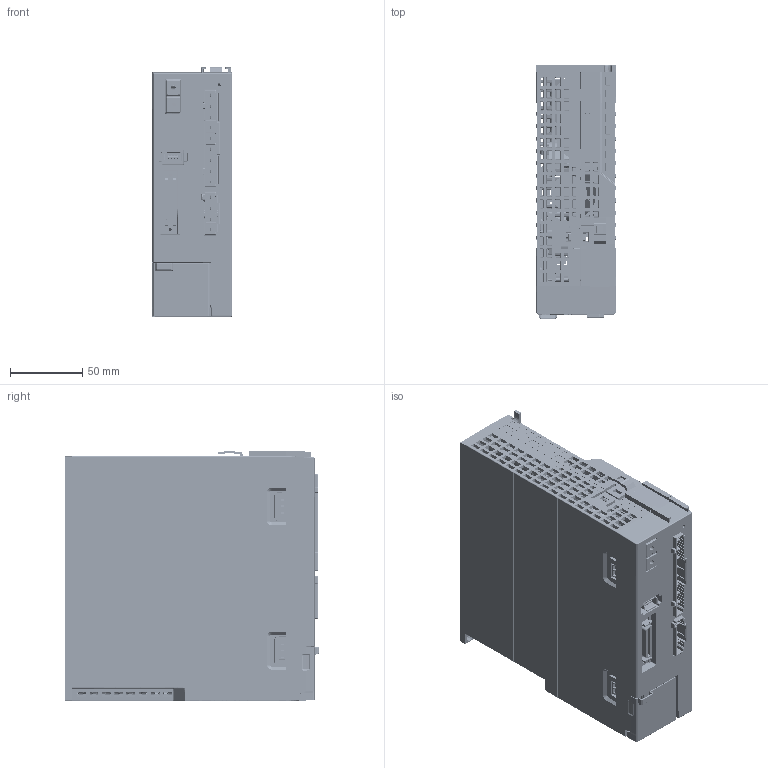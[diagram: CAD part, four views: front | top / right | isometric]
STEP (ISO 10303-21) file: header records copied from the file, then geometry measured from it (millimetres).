
FILE_DESCRIPTION((''),'2;1');
FILE_NAME('000','2024-09-04T13:53:33',('RD0060'),(''),'CREO PARAMETRIC BY PTC INC, 2016510','CREO PARAMETRIC BY PTC INC, 2016510','');
FILE_SCHEMA(('CONFIG_CONTROL_DESIGN'));
Products named in the file (1): 000
Bounding box: 55 x 175.99 x 173.7 mm (x, y, z)
Surface area: 416586.7 mm2 (no closed solid volume)
Topology: 0 solids, 449 shells, 9939 faces, 33863 edges, 23804 vertices
Faces by surface type: plane 5444, cylinder 3060, bspline 964, torus 187, cone 183, sphere 91, extrusion 8, revolution 2
Entity records: 403927 total; most frequent: CARTESIAN_POINT 124586, ORIENTED_EDGE 57533, DIRECTION 51440, EDGE_CURVE 33746, VERTEX_POINT 23804, VECTOR 21732, LINE 21724, AXIS2_PLACEMENT_3D 14853
